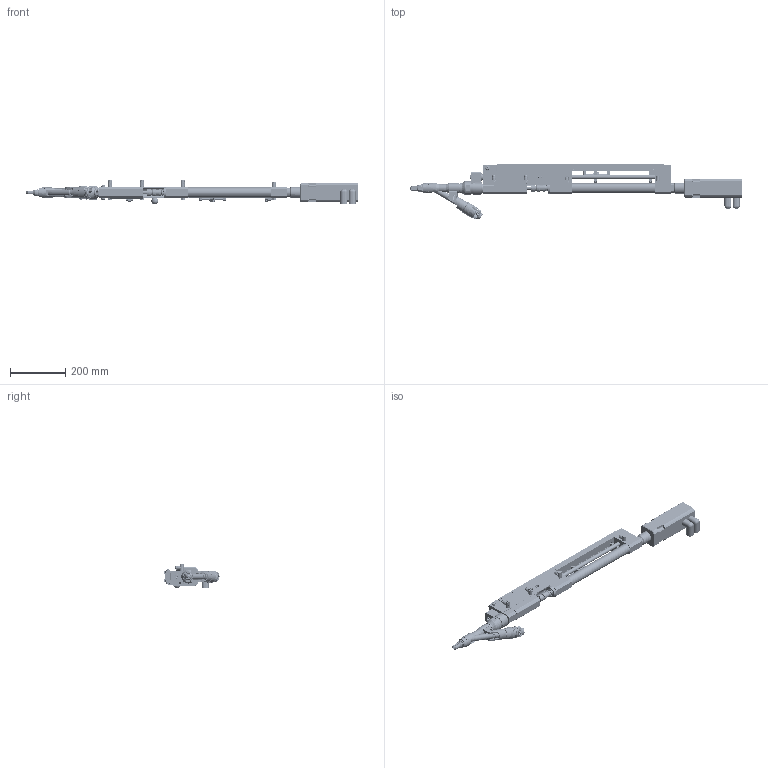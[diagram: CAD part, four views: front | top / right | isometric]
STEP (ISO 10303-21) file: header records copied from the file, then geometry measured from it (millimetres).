
FILE_DESCRIPTION(/* description */ (''),/* implementation_level */ '2;1');
FILE_NAME(/* name */ 'G:\Modelle für Marketing\3Ds Parasolid\3D_Parasolid_automatic_screwdriver_for_screws_SES3201_series.x_b.ipt.stp',/* time_stamp */ '2016-07-28T11:54:49+02:00',/* author */ ('Wolf'),/* organization */ (''),/* preprocessor_version */ 'ST-DEVELOPER v15.2',/* originating_system */ 'Autodesk Inventor 2014',/* authorisation */ '');
FILE_SCHEMA (('AUTOMOTIVE_DESIGN { 1 0 10303 214 3 1 1 }'));
Products named in the file (1): 3D_Parasolid_automatic_screwdriver_for_screws_SES3201_series.x_b
Bounding box: 1201.5 x 199.54 x 89.5 mm (x, y, z)
Volume: 3315649.2 mm3; surface area: 827403.1 mm2
Topology: 110 solids, 182 shells, 4206 faces, 11049 edges, 7140 vertices
Faces by surface type: plane 2147, cylinder 1235, cone 409, torus 169, bspline 136, sphere 110
Full cylindrical faces by diameter (mm): 1.5 x10, 2.38 x2, 2.42 x2, 2.5 x7, 2.54 x3, 2.878 x12, 3 x7, 3.02 x2, 3.1 x2, 3.242 x21, 3.6 x1, 4 x18, 4.1 x1, 4.134 x17, 4.2 x3, 4.3 x2, 4.5 x5, 4.917 x11, 5 x11, 5.6 x2, 5.8 x4, 6 x9, 6.05 x2, 6.2 x5, 6.3 x3, 6.5 x3, 6.64 x3, 6.647 x8, 7 x15, 7.1 x2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
Entity records: 132373 total; most frequent: CARTESIAN_POINT 34217, DIRECTION 19260, ORIENTED_EDGE 18558, EDGE_CURVE 9279, AXIS2_PLACEMENT_3D 7607, VERTEX_POINT 6646, EDGE_LOOP 5831, ADVANCED_FACE 4200
